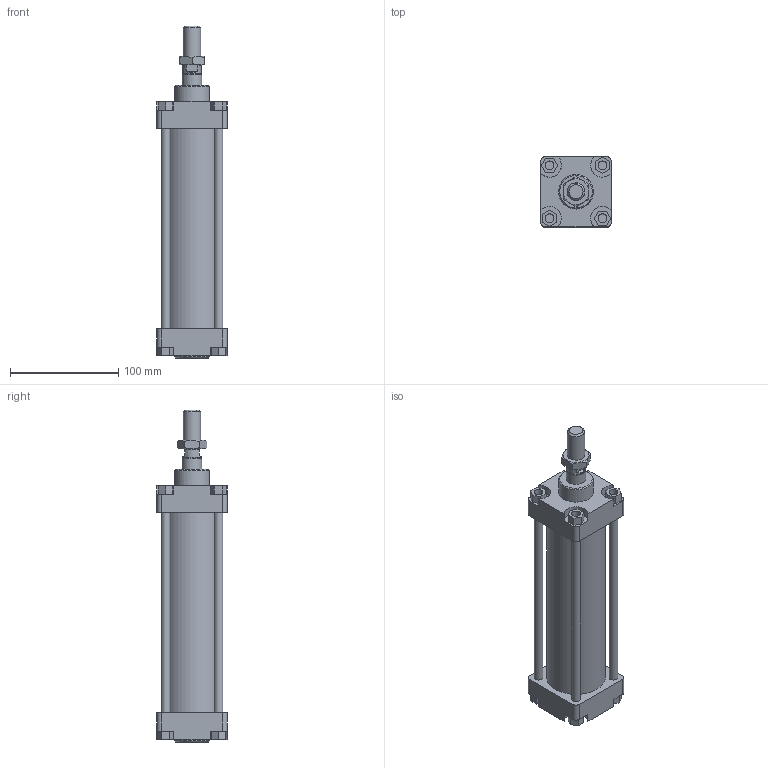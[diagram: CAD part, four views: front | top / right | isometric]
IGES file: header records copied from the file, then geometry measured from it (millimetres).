
Global section: file name: 1303_050_0125_01A; native system: Autodesk Inventor 2014; preprocessor: unknown; author: A. Manieri; date: 20161123.150219; units: millimetre
Bounding box: 65 x 65 x 307 mm (x, y, z)
Volume: 454802.8 mm3; surface area: 150208.7 mm2
Topology: 9 solids, 9 shells, 163 faces, 401 edges, 268 vertices
Faces by surface type: bspline 163
